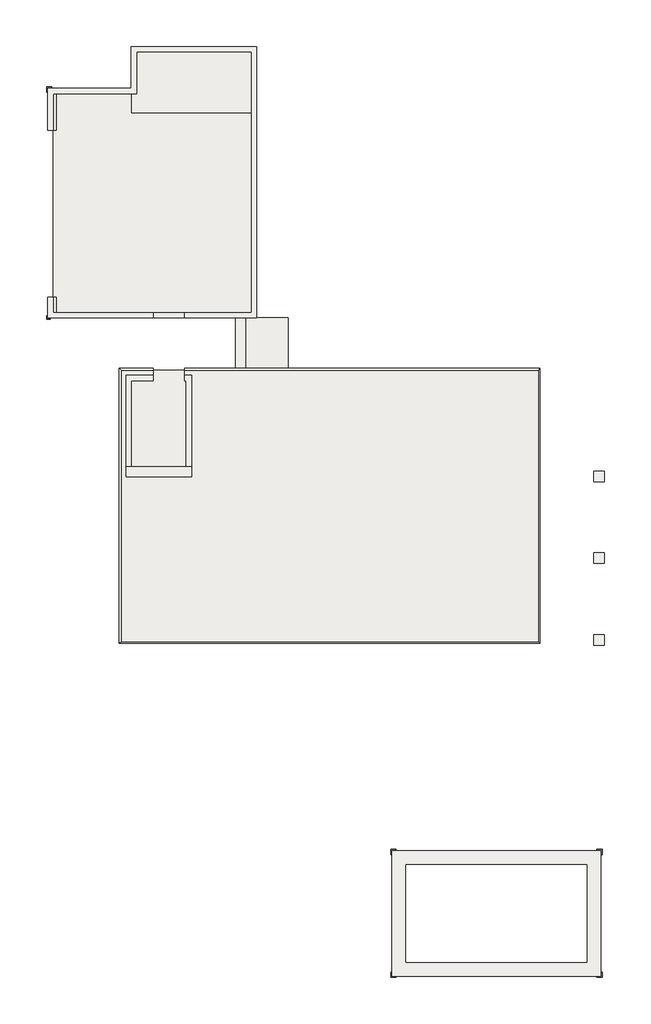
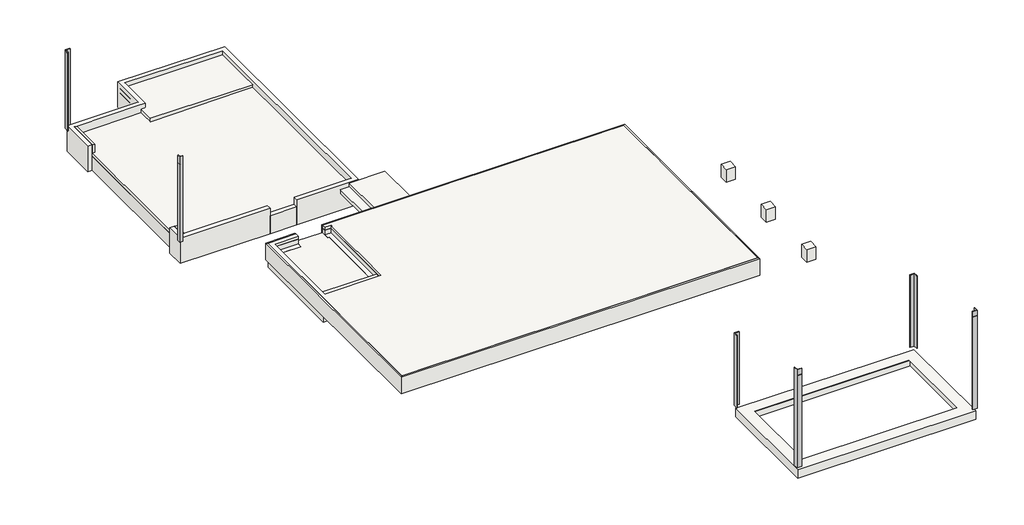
# One storey: 21 slabs, 6 proxies.
"""IFC4 building model written with IfcOpenShell, lengths in millimetres."""

from ifc_helpers import new_model, si_unit, frame, origin, place, context, project, spatial, polyline, outline, extrude, faceted_brep, transform, mapped, element, save
from components import garage_slab_garage_slab_8a387a14, garage_slab_door_threshold_garage_slab_door_threshold_fe057ce6, garage_slab_front_stem_wall_garage_slab_front_stem_wall_548c59a8, garage_slab_mech_garage_slab_mech_65c9a7b7, garage_slab_mech_room_garage_slab_mech_room_9d17ae99, garage_slab_oh_threshold_garage_slab_oh_threshold_0bd5272b, garage_slab_stem_wall_slab_plan_481d7022, garage_slab_steps_garage_slab_steps_ce2fd11b, garage_slab_wing_wall_garage_slab_wing_wall_024261c0, garage_slab_wing_wall1_garage_slab_wing_wall_d05e71c5, house_slab_house_slab_cbe13edb, house_slab_door_threshold_house_slab_door_threshold_10134720, house_slab_drop_hall_house_slab_drop_hall_82de9335, house_slab_footing_house_slab_footing_6262e99d, house_slab_perimeter_insulation_house_slab_perimeter_672b7200, house_slab_steps_house_slab_steps_78859ea8, house_slab_sweep_house_slab_sweep_aafa6f03, pier_footing_rectangular_pier_footing_rectangular_bd349e68, pier_footing_rectangular1_pier_footing_rectangular_225fa32e, pier_footing_rectangular2_pier_footing_rectangular_af7b8512, visitors_center_slab_stem_wall_visitors_center_slab_stem_61e19dc0

model = new_model("IFC4")

# Units and contexts
model_context = context("Model", 3, world=origin())
ifc_project = project(units=[si_unit("LENGTHUNIT", "METRE", prefix="MILLI")], contexts=[model_context])

# Site, building, storey
site = spatial("IfcSite", under=ifc_project)
building = spatial("IfcBuilding", under=site)
storey = spatial("IfcBuildingStorey", under=building, Name="T.O. Slab", Elevation=-152.4)

# Proxies
placement = place(None, origin())
element("IfcBuildingElementProxy", 1, Name="Exterior Trim Corner 1 x 4", ObjectType="Exterior Trim Corner 1 x 4", at=placement, inside=storey, context=model_context, shape_type="Brep", body=[
    faceted_brep([(-15421.8928637, 4939.2099287, -101.6), (-15421.8928637, 4850.3099287, -101.6), (-15332.9928637, 4850.3099287, -101.6), (-15332.9928637, 4831.2599287, -101.6), (-15440.9428637, 4831.2599287, -101.6), (-15440.9428637, 4939.2099287, -101.6), (-15421.8928637, 4850.3099287, 2981.3245769), (-15421.8928637, 4939.2099287, 2981.3245769), (-15440.9428637, 4939.2099287, 2981.3245769), (-15440.9428637, 4831.2599287, 2981.3245769), (-15332.9928637, 4831.2599287, 2981.3245769), (-15332.9928637, 4850.3099287, 2981.3245769), (-15421.8928637, 4939.2099287, 2709.5974935), (-15421.8928637, 4850.3099287, 2709.5974935), (-15421.8928637, 4850.3099287, 2726.7954102), (-15421.8928637, 4939.2099287, 2726.7954102), (-15399.6678637, 4850.3099287, 2718.8579102), (-15399.6678637, 4850.3099287, 2736.0558269), (-15440.9428637, 4831.2599287, 2718.8579102), (-15399.6678637, 4831.2599287, 2736.0558269), (-15399.6678637, 4831.2599287, 2718.8579102), (-15440.9428637, 4831.2599287, 2701.6599935), (-15440.9428637, 4939.2099287, 2701.6599935), (-15440.9428637, 4939.2099287, 2718.8579102)], [[[0, 1, 2, 3, 4, 5]], [[6, 7, 8, 9, 10, 11]], [[1, 0, 12, 13]], [[7, 6, 14, 15]], [[2, 1, 13, 16, 17, 14, 6, 11]], [[3, 2, 11, 10]], [[4, 3, 10, 9, 18, 19, 20, 21]], [[5, 4, 21, 22]], [[9, 8, 23, 18]], [[0, 5, 22, 12]], [[8, 7, 15, 23]], [[17, 19, 18, 23, 15, 14]], [[20, 16, 13, 12, 22, 21]], [[19, 17, 16, 20]]]),
])
element("IfcBuildingElementProxy", 2, Name="Exterior Trim Corner 1 x 6", ObjectType="Exterior Trim Corner 1 x 6", at=placement, inside=storey, context=model_context, shape_type="Brep", body=[
    faceted_brep([(-15282.1928637, 11600.3599287, -101.6), (-15421.8928637, 11600.3599287, -101.6), (-15421.8928637, 11460.6599287, -101.6), (-15440.9428637, 11460.6599287, -101.6), (-15440.9428637, 11619.4099287, -101.6), (-15282.1928637, 11619.4099287, -101.6), (-15421.8928637, 11600.3599287, 2743.2), (-15282.1928637, 11600.3599287, 2743.2), (-15282.1928637, 11619.4099287, 2743.2), (-15440.9428637, 11619.4099287, 2743.2), (-15440.9428637, 11460.6599287, 2743.2), (-15421.8928637, 11460.6599287, 2743.2), (-15421.8928637, 11600.3599287, 2726.7954102), (-15399.6678637, 11600.3599287, 2736.0558269), (-15399.6678637, 11600.3599287, 2718.8579102), (-15421.8928637, 11600.3599287, 2709.5974935), (-15421.8928637, 11460.6599287, 2709.5974935), (-15421.8928637, 11460.6599287, 2726.7954102), (-15440.9428637, 11460.6599287, 2701.6599935), (-15440.9428637, 11460.6599287, 2718.8579102), (-15440.9428637, 11619.4099287, 2701.6599935), (-15440.9428637, 11619.4099287, 2718.8579102), (-15399.6678637, 11619.4099287, 2718.8579102), (-15399.6678637, 11619.4099287, 2736.0558269)], [[[0, 1, 2, 3, 4, 5]], [[6, 7, 8, 9, 10, 11]], [[1, 0, 7, 6, 12, 13, 14, 15]], [[2, 1, 15, 16]], [[6, 11, 17, 12]], [[3, 2, 16, 18]], [[11, 10, 19, 17]], [[4, 3, 18, 20]], [[10, 9, 21, 19]], [[5, 4, 20, 22, 23, 21, 9, 8]], [[0, 5, 8, 7]], [[23, 13, 12, 17, 19, 21]], [[14, 22, 20, 18, 16, 15]], [[13, 23, 22, 14]]]),
])
element("IfcBuildingElementProxy", 3, Name="Exterior Trim Corner 1 x 6", ObjectType="Exterior Trim Corner 1 x 6", at=placement, inside=storey, context=model_context, shape_type="Brep", body=[
    faceted_brep([(637.2571363, -14364.7900713, 3395.7737252), (637.2571363, -14383.8400713, 3395.7737252), (796.0071363, -14383.8400713, 3395.7737252), (796.0071363, -14225.0900713, 3395.7737252), (776.9571363, -14225.0900713, 3395.7737252), (776.9571363, -14364.7900713, 3395.7737252), (637.2571363, -14383.8400713, -152.4), (637.2571363, -14364.7900713, -152.4), (776.9571363, -14364.7900713, -152.4), (776.9571363, -14225.0900713, -152.4), (796.0071363, -14225.0900713, -152.4), (796.0071363, -14383.8400713, -152.4), (637.2571363, -14364.7900713, 3205.3416026), (637.2571363, -14383.8400713, 3210.1285256), (637.2571363, -14383.8400713, 3190.4862973), (637.2571363, -14364.7900713, 3185.6993743), (796.0071363, -14383.8400713, 3210.1285256), (796.0071363, -14383.8400713, 3190.4862973), (796.0071363, -14355.2650713, 3202.948141), (796.0071363, -14355.2650713, 3183.3059127), (776.9571363, -14364.7900713, 3185.6993743), (776.9571363, -14355.2650713, 3183.3059127), (776.9571363, -14355.2650713, 3202.948141), (776.9571363, -14364.7900713, 3205.3416026)], [[[0, 1, 2, 3, 4, 5]], [[6, 7, 8, 9, 10, 11]], [[1, 0, 12, 13]], [[7, 6, 14, 15]], [[2, 1, 13, 16]], [[6, 11, 17, 14]], [[3, 2, 16, 18, 19, 17, 11, 10]], [[4, 3, 10, 9]], [[5, 4, 9, 8, 20, 21, 22, 23]], [[0, 5, 23, 12]], [[8, 7, 15, 20]], [[22, 18, 16, 13, 12, 23]], [[19, 21, 20, 15, 14, 17]], [[18, 22, 21, 19]]]),
])
element("IfcBuildingElementProxy", 4, Name="Exterior Trim Corner 1 x 6", ObjectType="Exterior Trim Corner 1 x 6", at=placement, inside=storey, context=model_context, shape_type="Brep", body=[
    faceted_brep([(-5363.4928637, -14225.0900713, 3395.7737252), (-5382.5428637, -14225.0900713, 3395.7737252), (-5382.5428637, -14383.8400713, 3395.7737252), (-5223.7928637, -14383.8400713, 3395.7737252), (-5223.7928637, -14364.7900713, 3395.7737252), (-5363.4928637, -14364.7900713, 3395.7737252), (-5382.5428637, -14225.0900713, -152.4), (-5363.4928637, -14225.0900713, -152.4), (-5363.4928637, -14364.7900713, -152.4), (-5223.7928637, -14364.7900713, -152.4), (-5223.7928637, -14383.8400713, -152.4), (-5382.5428637, -14383.8400713, -152.4), (-5382.5428637, -14383.8400713, 3190.4862973), (-5382.5428637, -14355.2650713, 3183.3059127), (-5382.5428637, -14355.2650713, 3202.948141), (-5382.5428637, -14383.8400713, 3210.1285256), (-5223.7928637, -14383.8400713, 3210.1285256), (-5223.7928637, -14383.8400713, 3190.4862973), (-5223.7928637, -14364.7900713, 3205.3416026), (-5223.7928637, -14364.7900713, 3185.6993743), (-5363.4928637, -14364.7900713, 3205.3416026), (-5363.4928637, -14364.7900713, 3185.6993743), (-5363.4928637, -14355.2650713, 3202.948141), (-5363.4928637, -14355.2650713, 3183.3059127)], [[[0, 1, 2, 3, 4, 5]], [[6, 7, 8, 9, 10, 11]], [[1, 0, 7, 6]], [[2, 1, 6, 11, 12, 13, 14, 15]], [[3, 2, 15, 16]], [[11, 10, 17, 12]], [[4, 3, 16, 18]], [[10, 9, 19, 17]], [[5, 4, 18, 20]], [[9, 8, 21, 19]], [[0, 5, 20, 22, 23, 21, 8, 7]], [[14, 22, 20, 18, 16, 15]], [[23, 13, 12, 17, 19, 21]], [[22, 14, 13, 23]]]),
])
element("IfcBuildingElementProxy", 5, Name="Exterior Trim Corner 1 x 6", ObjectType="Exterior Trim Corner 1 x 6", at=placement, inside=storey, context=model_context, shape_type="SweptSolid", body=[
    extrude(outline(polyline([(637.2571363, -10662.7400713), (637.2571363, -10643.6900713), (796.0071363, -10643.6900713), (796.0071363, -10802.4400713), (776.9571363, -10802.4400713), (776.9571363, -10662.7400713), (637.2571363, -10662.7400713)])), frame((0.0, 0.0, -152.4), z_axis=(0.0, 0.0, 1.0), x_axis=(1.0, 0.0, 0.0)), (0.0, 0.0, 1.0), 2622.6612252),
])
element("IfcBuildingElementProxy", 6, Name="Exterior Trim Corner 1 x 6", ObjectType="Exterior Trim Corner 1 x 6", at=placement, inside=storey, context=model_context, shape_type="SweptSolid", body=[
    extrude(outline(polyline([(-5223.7928637, -10662.7400713), (-5363.4928637, -10662.7400713), (-5363.4928637, -10802.4400713), (-5382.5428637, -10802.4400713), (-5382.5428637, -10643.6900713), (-5223.7928637, -10643.6900713), (-5223.7928637, -10662.7400713)])), frame((0.0, 0.0, -152.4), z_axis=(0.0, 0.0, 1.0), x_axis=(1.0, 0.0, 0.0)), (0.0, 0.0, 1.0), 2622.6612252),
])

# Slabs
garage_slab_garage_slab_shape = garage_slab_garage_slab_8a387a14(model_context)
element("IfcSlab", 7, ObjectType="Garage Slab : Garage Slab", at=placement, inside=storey, context=model_context, shape_type="MappedRepresentation", body=[
    mapped(garage_slab_garage_slab_shape, transform((0.0, 0.0, 0.0), x_axis=(1.0, 0.0, 0.0), y_axis=(0.0, 1.0, 0.0), z_axis=(0.0, 0.0, 1.0))),
])
garage_slab_door_threshold_garage_slab_door_threshold_shape = garage_slab_door_threshold_garage_slab_door_threshold_fe057ce6(model_context)
element("IfcSlab", 8, ObjectType="Garage Slab Door Threshold : Garage Slab Door Threshold", at=placement, inside=storey, context=model_context, shape_type="MappedRepresentation", body=[
    mapped(garage_slab_door_threshold_garage_slab_door_threshold_shape, transform((0.0, 0.0, 0.0), x_axis=(1.0, 0.0, 0.0), y_axis=(0.0, 1.0, 0.0), z_axis=(0.0, 0.0, 1.0))),
])
garage_slab_front_stem_wall_garage_slab_front_stem_wall_shape = garage_slab_front_stem_wall_garage_slab_front_stem_wall_548c59a8(model_context)
element("IfcSlab", 9, ObjectType="Garage Slab Front Stem Wall : Garage Slab Front Stem Wall", at=placement, inside=storey, context=model_context, shape_type="MappedRepresentation", body=[
    mapped(garage_slab_front_stem_wall_garage_slab_front_stem_wall_shape, transform((0.0, 0.0, 0.0), x_axis=(1.0, 0.0, 0.0), y_axis=(0.0, 1.0, 0.0), z_axis=(0.0, 0.0, 1.0))),
])
garage_slab_mech_garage_slab_mech_shape = garage_slab_mech_garage_slab_mech_65c9a7b7(model_context)
element("IfcSlab", 10, ObjectType="Garage Slab Mech : Garage Slab Mech", at=placement, inside=storey, context=model_context, shape_type="MappedRepresentation", body=[
    mapped(garage_slab_mech_garage_slab_mech_shape, transform((0.0, 0.0, 0.0), x_axis=(1.0, 0.0, 0.0), y_axis=(0.0, 1.0, 0.0), z_axis=(0.0, 0.0, 1.0))),
])
garage_slab_mech_room_garage_slab_mech_room_shape = garage_slab_mech_room_garage_slab_mech_room_9d17ae99(model_context)
element("IfcSlab", 11, ObjectType="Garage Slab Mech Room : Garage Slab Mech Room", at=placement, inside=storey, context=model_context, shape_type="MappedRepresentation", body=[
    mapped(garage_slab_mech_room_garage_slab_mech_room_shape, transform((0.0, 0.0, 0.0), x_axis=(1.0, 0.0, 0.0), y_axis=(0.0, 1.0, 0.0), z_axis=(0.0, 0.0, 1.0))),
])
garage_slab_oh_threshold_garage_slab_oh_threshold_shape = garage_slab_oh_threshold_garage_slab_oh_threshold_0bd5272b(model_context)
element("IfcSlab", 12, ObjectType="Garage Slab OH Threshold : Garage Slab OH Threshold", at=placement, inside=storey, context=model_context, shape_type="MappedRepresentation", body=[
    mapped(garage_slab_oh_threshold_garage_slab_oh_threshold_shape, transform((0.0, 0.0, 0.0), x_axis=(1.0, 0.0, 0.0), y_axis=(0.0, 1.0, 0.0), z_axis=(0.0, 0.0, 1.0))),
])
garage_slab_stem_wall_slab_plan_shape = garage_slab_stem_wall_slab_plan_481d7022(model_context)
element("IfcSlab", 13, ObjectType="Garage Slab Stem Wall : Slab Plan", at=placement, inside=storey, context=model_context, shape_type="MappedRepresentation", body=[
    mapped(garage_slab_stem_wall_slab_plan_shape, transform((0.0, 0.0, 0.0), x_axis=(1.0, 0.0, 0.0), y_axis=(0.0, 1.0, 0.0), z_axis=(0.0, 0.0, 1.0))),
])
garage_slab_steps_garage_slab_steps_shape = garage_slab_steps_garage_slab_steps_ce2fd11b(model_context)
element("IfcSlab", 14, ObjectType="Garage Slab Steps : Garage Slab Steps", at=placement, inside=storey, context=model_context, shape_type="MappedRepresentation", body=[
    mapped(garage_slab_steps_garage_slab_steps_shape, transform((0.0, 0.0, 0.0), x_axis=(1.0, 0.0, 0.0), y_axis=(0.0, 1.0, 0.0), z_axis=(0.0, 0.0, 1.0))),
])
garage_slab_wing_wall_garage_slab_wing_wall_shape = garage_slab_wing_wall_garage_slab_wing_wall_024261c0(model_context)
element("IfcSlab", 15, ObjectType="Garage Slab Wing Wall : Garage Slab Wing Wall", at=placement, inside=storey, context=model_context, shape_type="MappedRepresentation", body=[
    mapped(garage_slab_wing_wall_garage_slab_wing_wall_shape, transform((0.0, 0.0, 0.0), x_axis=(1.0, 0.0, 0.0), y_axis=(0.0, 1.0, 0.0), z_axis=(0.0, 0.0, 1.0))),
])
garage_slab_wing_wall1_garage_slab_wing_wall_shape = garage_slab_wing_wall1_garage_slab_wing_wall_d05e71c5(model_context)
element("IfcSlab", 16, ObjectType="Garage Slab Wing Wall1 : Garage Slab Wing Wall", at=placement, inside=storey, context=model_context, shape_type="MappedRepresentation", body=[
    mapped(garage_slab_wing_wall1_garage_slab_wing_wall_shape, transform((0.0, 0.0, 0.0), x_axis=(1.0, 0.0, 0.0), y_axis=(0.0, 1.0, 0.0), z_axis=(0.0, 0.0, 1.0))),
])
house_slab_house_slab_shape = house_slab_house_slab_cbe13edb(model_context)
element("IfcSlab", 17, ObjectType="House Slab : House Slab", at=placement, inside=storey, context=model_context, shape_type="MappedRepresentation", body=[
    mapped(house_slab_house_slab_shape, transform((0.0, 0.0, 0.0), x_axis=(1.0, 0.0, 0.0), y_axis=(0.0, 1.0, 0.0), z_axis=(0.0, 0.0, 1.0))),
])
house_slab_door_threshold_house_slab_door_threshold_shape = house_slab_door_threshold_house_slab_door_threshold_10134720(model_context)
element("IfcSlab", 18, ObjectType="House Slab Door Threshold : House Slab Door Threshold", at=placement, inside=storey, context=model_context, shape_type="MappedRepresentation", body=[
    mapped(house_slab_door_threshold_house_slab_door_threshold_shape, transform((0.0, 0.0, 0.0), x_axis=(1.0, 0.0, 0.0), y_axis=(0.0, 1.0, 0.0), z_axis=(0.0, 0.0, 1.0))),
])
house_slab_drop_hall_house_slab_drop_hall_shape = house_slab_drop_hall_house_slab_drop_hall_82de9335(model_context)
element("IfcSlab", 19, ObjectType="House Slab Drop Hall : House Slab Drop Hall", at=placement, inside=storey, context=model_context, shape_type="MappedRepresentation", body=[
    mapped(house_slab_drop_hall_house_slab_drop_hall_shape, transform((0.0, 0.0, 0.0), x_axis=(1.0, 0.0, 0.0), y_axis=(0.0, 1.0, 0.0), z_axis=(0.0, 0.0, 1.0))),
])
house_slab_footing_house_slab_footing_shape = house_slab_footing_house_slab_footing_6262e99d(model_context)
element("IfcSlab", 20, ObjectType="House Slab Footing : House Slab Footing", at=placement, inside=storey, context=model_context, shape_type="MappedRepresentation", body=[
    mapped(house_slab_footing_house_slab_footing_shape, transform((0.0, 0.0, 0.0), x_axis=(1.0, 0.0, 0.0), y_axis=(0.0, 1.0, 0.0), z_axis=(0.0, 0.0, 1.0))),
])
house_slab_perimeter_insulation_house_slab_perimeter_shape = house_slab_perimeter_insulation_house_slab_perimeter_672b7200(model_context)
element("IfcSlab", 21, ObjectType="House Slab Perimeter Insulation : House Slab Perimeter Insulation", at=placement, inside=storey, context=model_context, shape_type="MappedRepresentation", body=[
    mapped(house_slab_perimeter_insulation_house_slab_perimeter_shape, transform((0.0, 0.0, 0.0), x_axis=(1.0, 0.0, 0.0), y_axis=(0.0, 1.0, 0.0), z_axis=(0.0, 0.0, 1.0))),
])
house_slab_steps_house_slab_steps_shape = house_slab_steps_house_slab_steps_78859ea8(model_context)
element("IfcSlab", 22, ObjectType="House Slab Steps : House Slab Steps", at=placement, inside=storey, context=model_context, shape_type="MappedRepresentation", body=[
    mapped(house_slab_steps_house_slab_steps_shape, transform((0.0, 0.0, 0.0), x_axis=(1.0, 0.0, 0.0), y_axis=(0.0, 1.0, 0.0), z_axis=(0.0, 0.0, 1.0))),
])
house_slab_sweep_house_slab_sweep_shape = house_slab_sweep_house_slab_sweep_aafa6f03(model_context)
element("IfcSlab", 23, ObjectType="House Slab Sweep : House Slab Sweep", at=placement, inside=storey, context=model_context, shape_type="MappedRepresentation", body=[
    mapped(house_slab_sweep_house_slab_sweep_shape, transform((0.0, 0.0, 0.0), x_axis=(1.0, 0.0, 0.0), y_axis=(0.0, 1.0, 0.0), z_axis=(0.0, 0.0, 1.0))),
])
pier_footing_rectangular_pier_footing_rectangular_shape = pier_footing_rectangular_pier_footing_rectangular_bd349e68(model_context)
element("IfcSlab", 24, ObjectType="Pier Footing-Rectangular : Pier Footing-Rectangular", at=placement, inside=storey, context=model_context, shape_type="MappedRepresentation", body=[
    mapped(pier_footing_rectangular_pier_footing_rectangular_shape, transform((0.0, 0.0, 0.0), x_axis=(1.0, 0.0, 0.0), y_axis=(0.0, 1.0, 0.0), z_axis=(0.0, 0.0, 1.0))),
])
pier_footing_rectangular1_pier_footing_rectangular_shape = pier_footing_rectangular1_pier_footing_rectangular_225fa32e(model_context)
element("IfcSlab", 25, ObjectType="Pier Footing-Rectangular1 : Pier Footing-Rectangular", at=placement, inside=storey, context=model_context, shape_type="MappedRepresentation", body=[
    mapped(pier_footing_rectangular1_pier_footing_rectangular_shape, transform((0.0, 152.4, 0.0), x_axis=(1.0, 0.0, 0.0), y_axis=(0.0, 1.0, 0.0), z_axis=(0.0, 0.0, 1.0))),
])
pier_footing_rectangular2_pier_footing_rectangular_shape = pier_footing_rectangular2_pier_footing_rectangular_af7b8512(model_context)
element("IfcSlab", 26, ObjectType="Pier Footing-Rectangular2 : Pier Footing-Rectangular", at=placement, inside=storey, context=model_context, shape_type="MappedRepresentation", body=[
    mapped(pier_footing_rectangular2_pier_footing_rectangular_shape, transform((0.0, 0.0, 0.0), x_axis=(1.0, 0.0, 0.0), y_axis=(0.0, 1.0, 0.0), z_axis=(0.0, 0.0, 1.0))),
])
visitors_center_slab_stem_wall_visitors_center_slab_stem_shape = visitors_center_slab_stem_wall_visitors_center_slab_stem_61e19dc0(model_context)
element("IfcSlab", 27, ObjectType="Visitors Center Slab Stem Wall : Visitors Center Slab Stem Wall", at=placement, inside=storey, context=model_context, shape_type="MappedRepresentation", body=[
    mapped(visitors_center_slab_stem_wall_visitors_center_slab_stem_shape, transform((0.0, 0.0, 0.0), x_axis=(1.0, 0.0, 0.0), y_axis=(0.0, 1.0, 0.0), z_axis=(0.0, 0.0, 1.0))),
])

save(model, "model.ifc")
